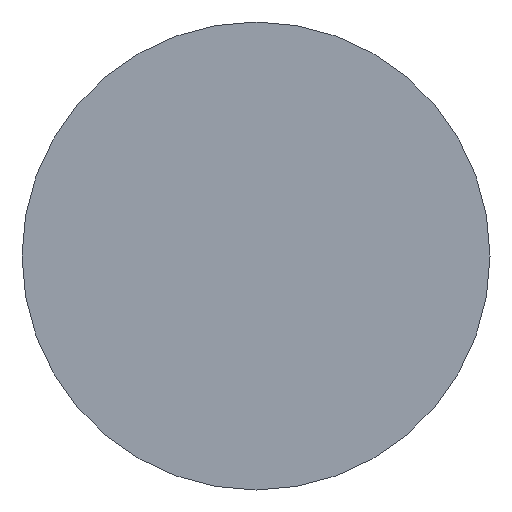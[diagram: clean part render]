
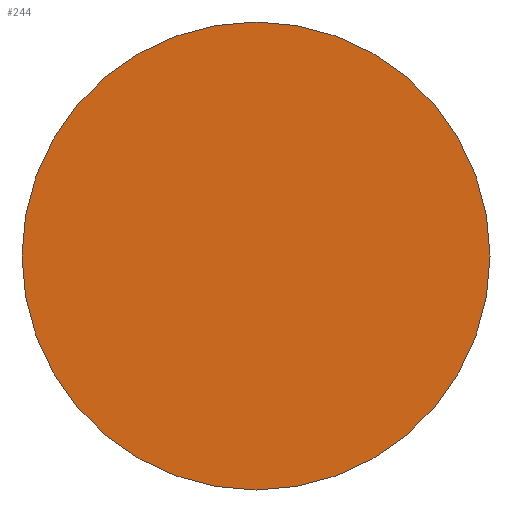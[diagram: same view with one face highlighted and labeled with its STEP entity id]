
A CAD part, front view. The second image highlights one B-rep face of the part: STEP entity #244.
In plain terms, the highlighted planar face has unit normal (0, -1, 0).
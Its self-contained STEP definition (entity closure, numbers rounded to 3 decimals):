
#161 = VERTEX_POINT('',#162);
#162 = CARTESIAN_POINT('',(75.,-107.8,-239.2));
#171 = CYLINDRICAL_SURFACE('',#172,9.);
#172 = AXIS2_PLACEMENT_3D('',#173,#174,#175);
#173 = CARTESIAN_POINT('',(66.,-107.8,-239.2));
#174 = DIRECTION('',(0.,-1.,-0.));
#175 = DIRECTION('',(1.,0.,0.));
#218 = EDGE_CURVE('',#161,#161,#219,.T.);
#219 = SURFACE_CURVE('',#220,(#225,#232),.PCURVE_S1.);
#220 = CIRCLE('',#221,9.);
#221 = AXIS2_PLACEMENT_3D('',#222,#223,#224);
#222 = CARTESIAN_POINT('',(66.,-107.8,-239.2));
#223 = DIRECTION('',(-0.,1.,0.));
#224 = DIRECTION('',(1.,0.,0.));
#225 = PCURVE('',#171,#226);
#226 = DEFINITIONAL_REPRESENTATION('',(#227),#231);
#227 = LINE('',#228,#229);
#228 = CARTESIAN_POINT('',(-0.,0.));
#229 = VECTOR('',#230,1.);
#230 = DIRECTION('',(-1.,0.));
#231 = ( GEOMETRIC_REPRESENTATION_CONTEXT(2) 
PARAMETRIC_REPRESENTATION_CONTEXT() REPRESENTATION_CONTEXT('2D SPACE',''
  ) );
#232 = PCURVE('',#233,#238);
#233 = PLANE('',#234);
#234 = AXIS2_PLACEMENT_3D('',#235,#236,#237);
#235 = CARTESIAN_POINT('',(66.,-107.8,-239.2));
#236 = DIRECTION('',(0.,1.,0.));
#237 = DIRECTION('',(0.,-0.,1.));
#238 = DEFINITIONAL_REPRESENTATION('',(#239),#243);
#239 = CIRCLE('',#240,9.);
#240 = AXIS2_PLACEMENT_2D('',#241,#242);
#241 = CARTESIAN_POINT('',(0.,0.));
#242 = DIRECTION('',(0.,1.));
#243 = ( GEOMETRIC_REPRESENTATION_CONTEXT(2) 
PARAMETRIC_REPRESENTATION_CONTEXT() REPRESENTATION_CONTEXT('2D SPACE',''
  ) );
#244 = ADVANCED_FACE('',(#245),#233,.F.);
#245 = FACE_BOUND('',#246,.F.);
#246 = EDGE_LOOP('',(#247));
#247 = ORIENTED_EDGE('',*,*,#218,.T.);
